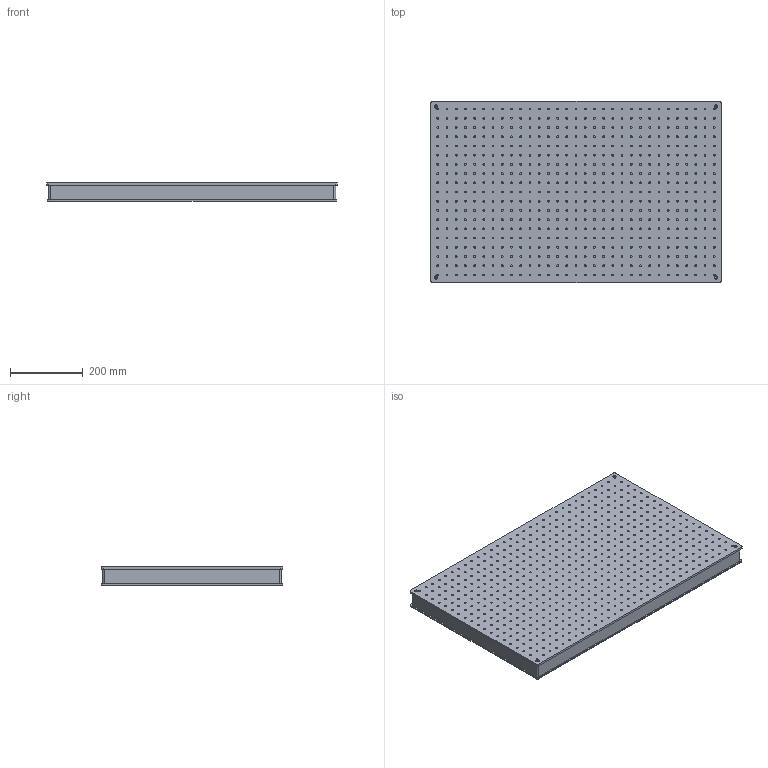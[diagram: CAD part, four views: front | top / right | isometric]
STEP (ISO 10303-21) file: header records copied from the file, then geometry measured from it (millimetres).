
FILE_DESCRIPTION(/* description */ (''),/* implementation_level */ '2;1');
FILE_NAME(/* name */ 'U:\KONSTRUKTORIAI\DOKUMENTACIJA\1\1HB-AL\1HB-AL-05-08-05-BL\step\1HB-AL-E-05-08-05-BL.stp',/* time_stamp */ '2018-02-15T15:20:56+02:00',/* author */ ('dsgn31'),/* organization */ (''),/* preprocessor_version */ 'ST-DEVELOPER v15.2',/* originating_system */ 'Autodesk Inventor 2014',/* authorisation */ '');
FILE_SCHEMA (('AUTOMOTIVE_DESIGN { 1 0 10303 214 3 1 1 }'));
Length unit declared in the file: inch
Products named in the file (1): 1HB-AL-E-05-08-05_Shrinkwrap_1
Bounding box: 800 x 500 x 50 mm (x, y, z)
Volume: 19503645.3 mm3; surface area: 1002002.9 mm2
Topology: 1 solids, 7 shells, 1310 faces, 2329 edges, 1632 vertices
Faces by surface type: plane 657, cylinder 637, cone 16
Full cylindrical faces by diameter (mm): 4 x8, 4.5 x8, 4.917 x593
Entity records: 27805 total; most frequent: DIRECTION 5330, CARTESIAN_POINT 4187, ORIENTED_EDGE 2884, AXIS2_PLACEMENT_3D 2609, EDGE_LOOP 2546, EDGE_CURVE 1442, VERTEX_POINT 1370, ADVANCED_FACE 1310
